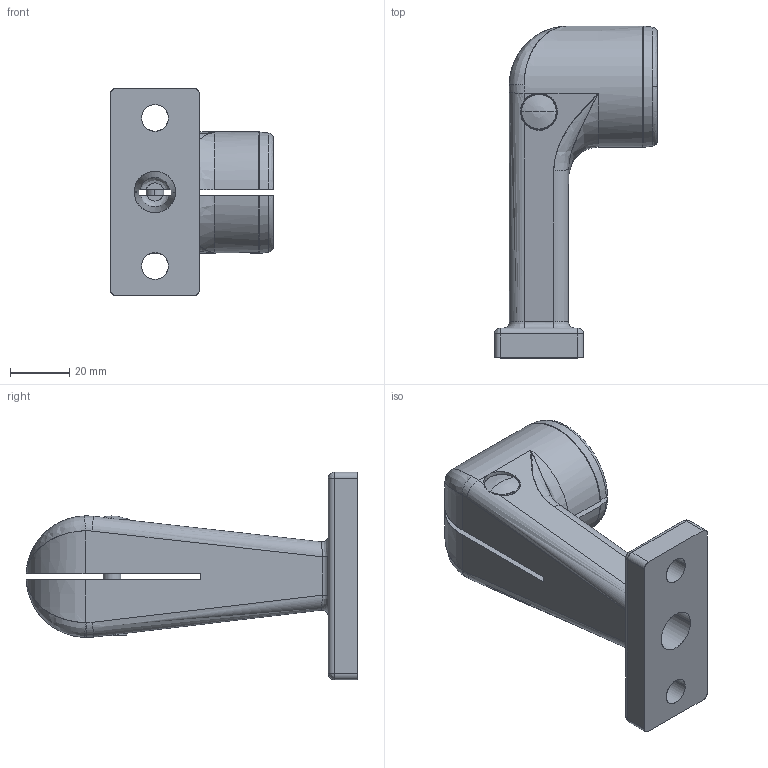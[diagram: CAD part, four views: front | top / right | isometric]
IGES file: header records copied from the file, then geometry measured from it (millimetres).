
Start section: SolidWorks IGES file using analytic representation for surfaces
Global section: file name: C:\Users\Gerard\OneDrive - Tecnodin, S.L\Escritorio\30 mm Verbinder im step. Format\31000410045.IGS; native system: SolidWorks 2016; preprocessor: SolidWorks 2016; author: Gerard; date: 240902.113309; units: millimetre
Bounding box: 55 x 111.98 x 70 mm (x, y, z)
Surface area: 29361.3 mm2 (no closed solid volume)
Topology: 0 solids, 0 shells, 135 faces, 2091 edges, 2078 vertices
Faces by surface type: revolution 68, bspline 67
